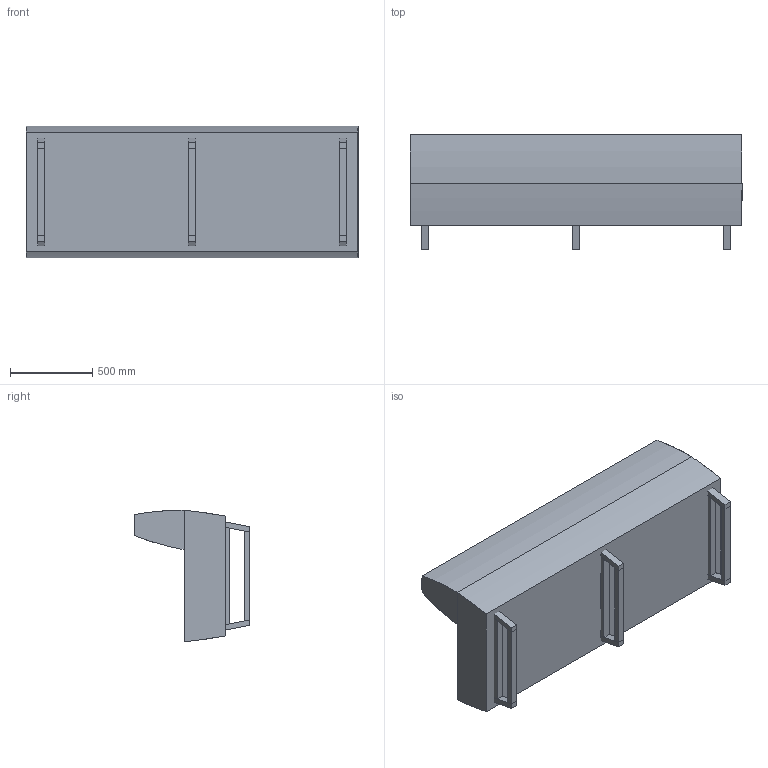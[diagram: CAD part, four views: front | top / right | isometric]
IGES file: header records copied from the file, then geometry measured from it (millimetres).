
Start section: SolidWorks IGES file using analytic representation for surfaces
Global section: file name: P:\3D CAD BLOCKS\us\THREE SEAT WITH BACK\us - THREE SEAT WITH BACK.IGS; native system: SolidWorks 2012; preprocessor: SolidWorks 2012; author: adam; date: 140226.121657; units: millimetre
Bounding box: 2020 x 703.49 x 800 mm (x, y, z)
Surface area: 7975980.2 mm2 (no closed solid volume)
Topology: 0 solids, 0 shells, 168 faces, 1126 edges, 1126 vertices
Faces by surface type: bspline 139, revolution 29
